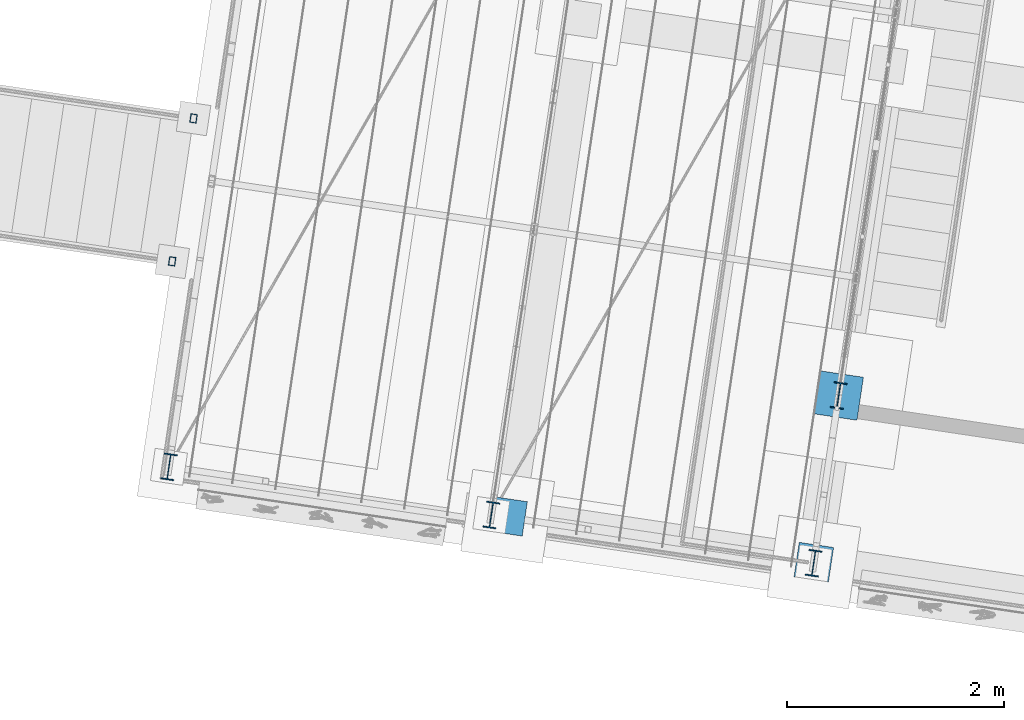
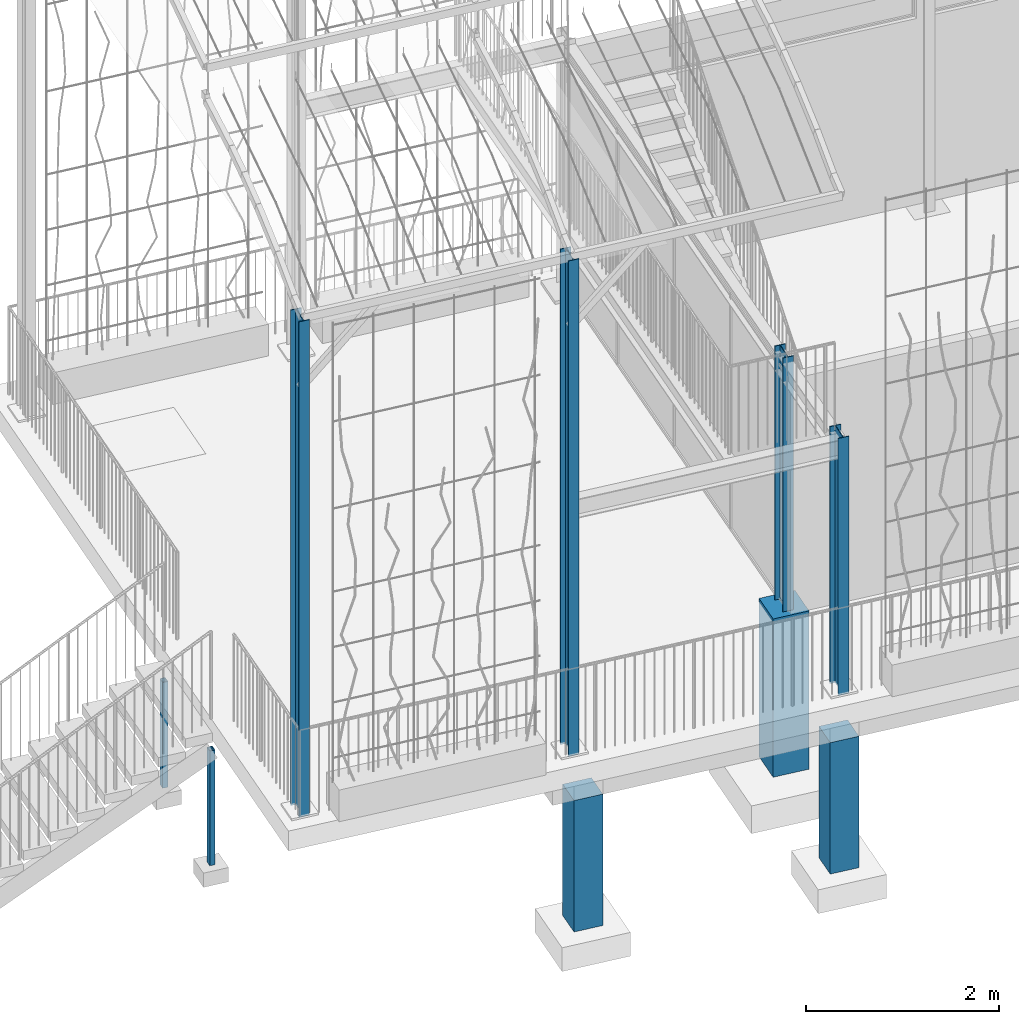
# One storey, part 2 of 142: 9 columns, 3 elements without a shape of their own.
"""IFC4 building model written with IfcOpenShell, lengths in metres."""

from ifc_helpers import new_model, si_unit, direction, frame, origin_with_axes, place, context, subcontext, project, spatial, polyline, hollow_rectangle, i_section, outline, extrude, material, material_profile, profile_set, profile_usage, type_object, element, aggregate, save


model = new_model("IFC4")

# Units and contexts
model_context = context("Model", 3, precision=1e-05, world=origin_with_axes(), true_north=direction((0.0, 1.0)))
body_context = subcontext(model_context, "Body", "Model", "MODEL_VIEW")
ifc_project = project(units=[si_unit("LENGTHUNIT", "METRE"), si_unit("AREAUNIT", "SQUARE_METRE"), si_unit("VOLUMEUNIT", "CUBIC_METRE")], contexts=[model_context])

# Site, building, storey
site_placement = place(None, origin_with_axes())
site = spatial("IfcSite", under=ifc_project, at=site_placement, Name="Lares · Rua das Mercês · artigo 4771")
building_placement = place(site_placement, frame((15.0, 9.7, 14.65), z_axis=(0.0, 0.0, 1.0), x_axis=(0.989015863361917, -0.147809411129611, 0.0)))
building = spatial("IfcBuilding", under=site, at=building_placement, Name="Casa Sobreposta")
storey_placement = place(building_placement, origin_with_axes())
storey = spatial("IfcBuildingStorey", under=building, at=storey_placement, Name="00 · Habitação e estacionamento", Elevation=14.65)

# Column
ifc_material_1 = material(Name="Aço pintado / Stahl lackiert", Category="steel")
ifc_material_profile_1 = material_profile(ifc_material_1, i_section(OverallWidth=0.12, OverallDepth=0.24, WebThickness=0.0062, FlangeThickness=0.0098))
ifc_profile_set_1 = profile_set([ifc_material_profile_1], Name="IPE240")
ifc_profile_usage_1 = profile_usage(ifc_profile_set_1)
column_type_1 = type_object("IfcColumnType", Name="IPE240 / steel", PredefinedType="NOTDEFINED", material=ifc_profile_set_1)
column_1_placement = place(storey_placement, frame((0.0, 0.12, 0.0), z_axis=(0.0, 0.0, 1.0), x_axis=(1.0, 0.0, 0.0)))
element("IfcColumn", 1, at=column_1_placement, inside=storey, type_object=column_type_1, material=ifc_profile_usage_1, Name="Pilar 1A · IPE240", context=body_context, shape_type="SweptSolid", body=[
    extrude(i_section(OverallWidth=0.12, OverallDepth=0.24, WebThickness=0.0062, FlangeThickness=0.0098), origin_with_axes(), (0.0, 0.0, 1.0), 3.208),
])

# Assembly, columns
assembly_1_placement = place(storey_placement, origin_with_axes())
assembly_1 = element("IfcElementAssembly", 2, at=assembly_1_placement, inside=storey, Name="Pérgola · prolongamento da estufa 6 m", ObjectType="PERGOLA_GREENHOUSE_EXTENSION", PredefinedType="USERDEFINED")
ifc_profile_usage_2 = profile_usage(ifc_profile_set_1)
column_2_placement = place(assembly_1_placement, frame((-6.0, -1.44, -0.04), z_axis=(0.0, 0.0, 1.0), x_axis=(1.0, 0.0, 0.0)))
column_2 = element("IfcColumn", 3, at=column_2_placement, type_object=column_type_1, material=ifc_profile_usage_2, Name="Pérgola · pilar de duplo pé-direito", context=body_context, shape_type="SweptSolid", body=[
    extrude(i_section(OverallWidth=0.12, OverallDepth=0.24, WebThickness=0.0062, FlangeThickness=0.0098), origin_with_axes(), (0.0, 0.0, 1.0), 6.26),
])
ifc_profile_usage_3 = profile_usage(ifc_profile_set_1)
column_3_placement = place(assembly_1_placement, frame((-3.0, -1.44, -0.04), z_axis=(0.0, 0.0, 1.0), x_axis=(1.0, 0.0, 0.0)))
column_3 = element("IfcColumn", 4, at=column_3_placement, type_object=column_type_1, material=ifc_profile_usage_3, Name="Pérgola · pilar de duplo pé-direito", context=body_context, shape_type="SweptSolid", body=[
    extrude(i_section(OverallWidth=0.12, OverallDepth=0.24, WebThickness=0.0062, FlangeThickness=0.0098), origin_with_axes(), (0.0, 0.0, 1.0), 6.26),
])
aggregate(assembly_1, [column_2, column_3])

# Column
ifc_profile_usage_4 = profile_usage(ifc_profile_set_1)
column_4_placement = place(storey_placement, frame((0.0, -1.44, -0.04), z_axis=(0.0, 0.0, 1.0), x_axis=(1.0, 0.0, 0.0)))
element("IfcColumn", 5, at=column_4_placement, inside=storey, type_object=column_type_1, material=ifc_profile_usage_4, Name="Projeção estufa · pilar sul ao pódio", context=body_context, shape_type="SweptSolid", body=[
    extrude(i_section(OverallWidth=0.12, OverallDepth=0.24, WebThickness=0.0062, FlangeThickness=0.0098), origin_with_axes(), (0.0, 0.0, 1.0), 3.248),
])

# Stair, columns
stair_placement = place(storey_placement, origin_with_axes())
stair = element("IfcStair", 6, at=stair_placement, inside=storey, Name="Jardim · escada pela fachada poente", PredefinedType="STRAIGHT_RUN_STAIR")
ifc_material_profile_2 = material_profile(ifc_material_1, hollow_rectangle(XDim=0.06, YDim=0.08, WallThickness=0.004))
ifc_profile_set_2 = profile_set([ifc_material_profile_2], Name="RHS80x60x4")
ifc_profile_usage_5 = profile_usage(ifc_profile_set_2)
column_type_2 = type_object("IfcColumnType", Name="RHS80x60x4 / steel", PredefinedType="NOTDEFINED", material=ifc_profile_set_2)
column_5_placement = place(stair_placement, frame((-6.25, 0.435, -1.86767746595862), z_axis=(0.0, 0.0, 1.0), x_axis=(1.0, 0.0, 0.0)))
column_5 = element("IfcColumn", 7, at=column_5_placement, type_object=column_type_2, material=ifc_profile_usage_5, Name="Jardim · montante", context=body_context, shape_type="SweptSolid", body=[
    extrude(hollow_rectangle(XDim=0.06, YDim=0.08, WallThickness=0.004), origin_with_axes(), (0.0, 0.0, 1.0), 1.44851079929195),
])
ifc_profile_usage_6 = profile_usage(ifc_profile_set_2)
column_6_placement = place(stair_placement, frame((-6.25, 1.765, -1.75553574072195), z_axis=(0.0, 0.0, 1.0), x_axis=(1.0, 0.0, 0.0)))
column_6 = element("IfcColumn", 8, at=column_6_placement, type_object=column_type_2, material=ifc_profile_usage_6, Name="Jardim · montante", context=body_context, shape_type="SweptSolid", body=[
    extrude(hollow_rectangle(XDim=0.06, YDim=0.08, WallThickness=0.004), origin_with_axes(), (0.0, 0.0, 1.0), 1.33636907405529),
])
aggregate(stair, [column_5, column_6])

# Column
ifc_material_2 = material(Name="Betão armado / Stahlbeton", Category="concrete")
column_7_placement = place(storey_placement, frame((0.0, 0.0, -2.0), z_axis=(0.0, 0.0, 1.0), x_axis=(1.0, 0.0, 0.0)))
element("IfcColumn", 9, at=column_7_placement, inside=storey, material=ifc_material_2, Name="Pedestal 1A · betão 400 x 400", context=body_context, shape_type="SweptSolid", body=[
    extrude(outline(polyline([(0.2, -0.08), (0.2, 0.32), (-0.2, 0.32), (-0.2, -0.08), (0.2, -0.08)])), origin_with_axes(), (0.0, 0.0, 1.0), 2.0),
])

# Assembly, columns
assembly_2_placement = place(storey_placement, origin_with_axes())
assembly_2 = element("IfcElementAssembly", 10, at=assembly_2_placement, inside=storey, Name="Pódio · terraço, casa térrea e cisterna", ObjectType="CISTERN_PODIUM", PredefinedType="USERDEFINED")
column_8_placement = place(assembly_2_placement, frame((0.0, 0.0, -2.25), z_axis=(0.0, 0.0, 1.0), x_axis=(1.0, 0.0, 0.0)))
column_8 = element("IfcColumn", 11, at=column_8_placement, material=ifc_material_2, Name="Pódio suspenso · apoio sobre o terreno", context=body_context, shape_type="SweptSolid", body=[
    extrude(outline(polyline([(-2.69, -1.59), (-2.69, -1.27), (-3.01, -1.27), (-3.01, -1.59), (-2.69, -1.59)])), origin_with_axes(), (0.0, 0.0, 1.0), 1.66),
])
column_9_placement = place(assembly_2_placement, frame((0.0, 0.0, -2.25), z_axis=(0.0, 0.0, 1.0), x_axis=(1.0, 0.0, 0.0)))
column_9 = element("IfcColumn", 12, at=column_9_placement, material=ifc_material_2, Name="Pódio suspenso · apoio sobre o terreno", context=body_context, shape_type="SweptSolid", body=[
    extrude(outline(polyline([(0.16, -1.59), (0.16, -1.27), (-0.16, -1.27), (-0.16, -1.59), (0.16, -1.59)])), origin_with_axes(), (0.0, 0.0, 1.0), 1.66),
])
aggregate(assembly_2, [column_8, column_9])

save(model, "model.ifc")
